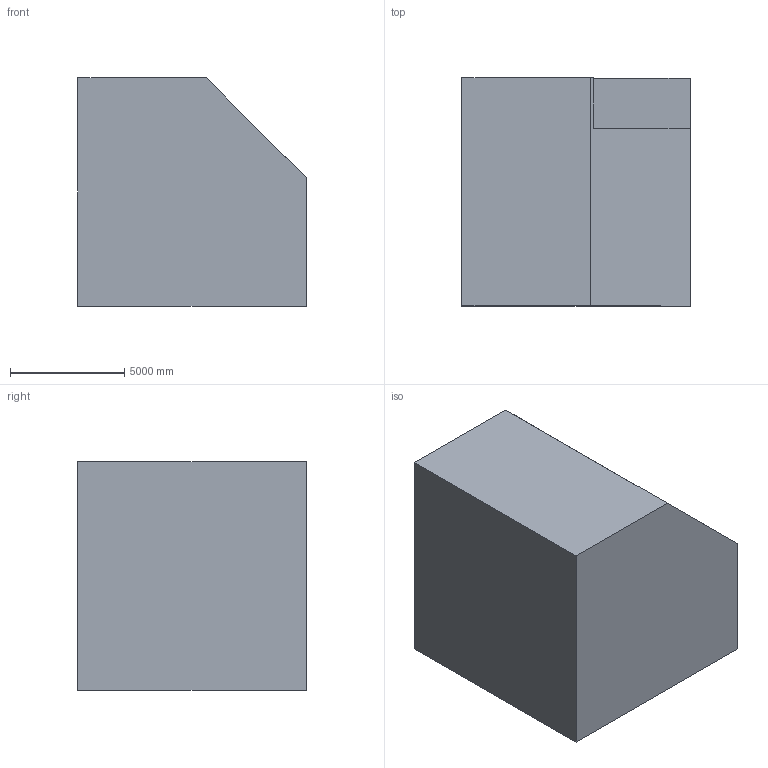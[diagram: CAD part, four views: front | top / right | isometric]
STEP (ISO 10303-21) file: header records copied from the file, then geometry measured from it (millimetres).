
FILE_DESCRIPTION (( 'STEP AP203' ), '1' );
FILE_NAME ('109.STEP', '2022-07-28T13:38:15', ( 'user' ), ( '' ), 'SwSTEP 2.0', 'SolidWorks 2021', '' );
FILE_SCHEMA (( 'CONFIG_CONTROL_DESIGN' ));
Length unit declared in the file: centimetre
Products named in the file (1): 109
Bounding box: 10000 x 10000 x 10000 mm (x, y, z)
Volume: 855914390908.6 mm3; surface area: 560990521.1 mm2
Topology: 1 solids, 1 shells, 10 faces, 24 edges, 16 vertices
Faces by surface type: plane 10
Entity records: 365 total; most frequent: CARTESIAN_POINT 51, ORIENTED_EDGE 48, DIRECTION 46, EDGE_CURVE 24, VECTOR 24, LINE 24, VERTEX_POINT 16, AXIS2_PLACEMENT_3D 11
